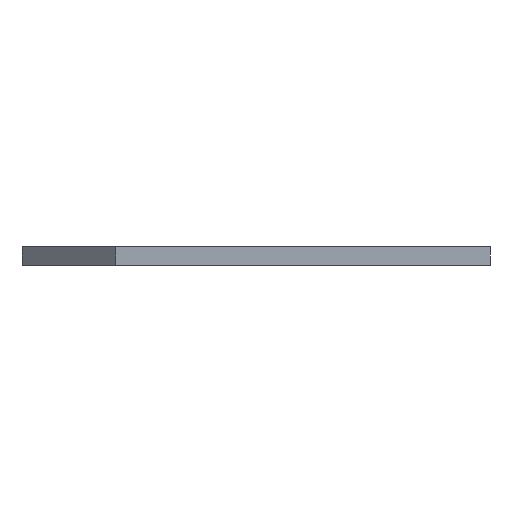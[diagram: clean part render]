
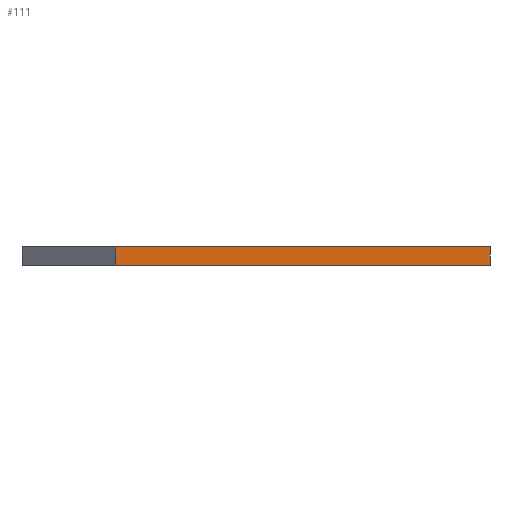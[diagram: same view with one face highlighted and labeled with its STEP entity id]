
A CAD part, left-side view. The second image highlights one B-rep face of the part: STEP entity #111.
In plain terms, the highlighted planar face has unit normal (-1, 0, 0).
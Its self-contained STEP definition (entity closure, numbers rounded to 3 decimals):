
#6 = EDGE_CURVE ( 'NONE', #20, #135, #90, .T. ) ;
#8 = ORIENTED_EDGE ( 'NONE', *, *, #110, .T. ) ;
#20 = VERTEX_POINT ( 'NONE', #83 ) ;
#21 = ORIENTED_EDGE ( 'NONE', *, *, #6, .F. ) ;
#24 = ORIENTED_EDGE ( 'NONE', *, *, #109, .F. ) ;
#28 = DIRECTION ( 'NONE',  ( 0., 0., -1. ) ) ;
#29 = CARTESIAN_POINT ( 'NONE',  ( -2000., -50., 4. ) ) ;
#83 = CARTESIAN_POINT ( 'NONE',  ( -2000., -50., 4. ) ) ;
#90 = LINE ( 'NONE', #29, #134 ) ;
#107 = EDGE_LOOP ( 'NONE', ( #112, #21, #24, #8 ) ) ;
#109 = EDGE_CURVE ( 'NONE', #138, #20, #259, .T. ) ;
#110 = EDGE_CURVE ( 'NONE', #138, #151, #228, .T. ) ;
#111 = ADVANCED_FACE ( 'NONE', ( #235 ), #234, .F. ) ;
#112 = ORIENTED_EDGE ( 'NONE', *, *, #150, .T. ) ;
#134 = VECTOR ( 'NONE', #28, 1000. ) ;
#135 = VERTEX_POINT ( 'NONE', #207 ) ;
#138 = VERTEX_POINT ( 'NONE', #223 ) ;
#150 = EDGE_CURVE ( 'NONE', #151, #135, #169, .T. ) ;
#151 = VERTEX_POINT ( 'NONE', #257 ) ;
#166 = DIRECTION ( 'NONE',  ( 0., -1., 0. ) ) ;
#167 = VECTOR ( 'NONE', #166, 1000. ) ;
#168 = CARTESIAN_POINT ( 'NONE',  ( -2000., -50., 0. ) ) ;
#169 = LINE ( 'NONE', #168, #167 ) ;
#207 = CARTESIAN_POINT ( 'NONE',  ( -2000., -50., 0. ) ) ;
#223 = CARTESIAN_POINT ( 'NONE',  ( -2000., 30., 4. ) ) ;
#224 = CARTESIAN_POINT ( 'NONE',  ( -2000., -50., 4. ) ) ;
#225 = DIRECTION ( 'NONE',  ( 0., 0., -1. ) ) ;
#226 = VECTOR ( 'NONE', #225, 1000. ) ;
#227 = CARTESIAN_POINT ( 'NONE',  ( -2000., 30., 4. ) ) ;
#228 = LINE ( 'NONE', #227, #226 ) ;
#229 = AXIS2_PLACEMENT_3D ( 'NONE', #224, #237, #236 ) ;
#230 = DIRECTION ( 'NONE',  ( 0., -1., 0. ) ) ;
#231 = VECTOR ( 'NONE', #230, 1000. ) ;
#232 = CARTESIAN_POINT ( 'NONE',  ( -2000., -50., 4. ) ) ;
#234 = PLANE ( 'NONE',  #229 ) ;
#235 = FACE_OUTER_BOUND ( 'NONE', #107, .T. ) ;
#236 = DIRECTION ( 'NONE',  ( 0., 0., -1. ) ) ;
#237 = DIRECTION ( 'NONE',  ( 1., 0., 0. ) ) ;
#257 = CARTESIAN_POINT ( 'NONE',  ( -2000., 30., 0. ) ) ;
#259 = LINE ( 'NONE', #232, #231 ) ;
